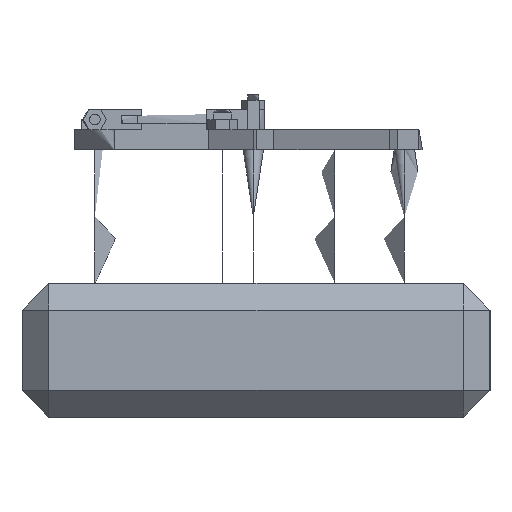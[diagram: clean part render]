
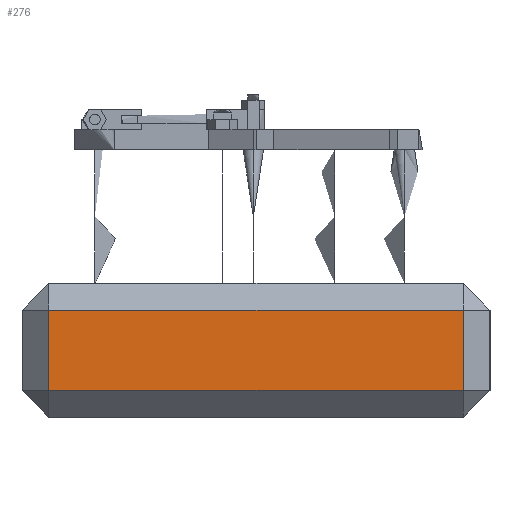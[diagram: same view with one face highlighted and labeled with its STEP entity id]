
A CAD part, left-side view. The second image highlights one B-rep face of the part: STEP entity #276.
In plain terms, the highlighted planar face has unit normal (-1, 0, 0).
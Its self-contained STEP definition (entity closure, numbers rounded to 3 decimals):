
#276=ADVANCED_FACE('',(#618),#4832,.T.);
#618=FACE_OUTER_BOUND('',#976,.T.);
#976=EDGE_LOOP('',(#2248,#2249,#2250,#2251));
#2248=ORIENTED_EDGE('',*,*,#3379,.T.);
#2249=ORIENTED_EDGE('',*,*,#3381,.T.);
#2250=ORIENTED_EDGE('',*,*,#3382,.F.);
#2251=ORIENTED_EDGE('',*,*,#3380,.F.);
#3379=EDGE_CURVE('',#4460,#4461,#5235,.T.);
#3380=EDGE_CURVE('',#4460,#4462,#5236,.T.);
#3381=EDGE_CURVE('',#4461,#4463,#5237,.T.);
#3382=EDGE_CURVE('',#4462,#4463,#5238,.T.);
#4460=VERTEX_POINT('',#9089);
#4461=VERTEX_POINT('',#9090);
#4462=VERTEX_POINT('',#9091);
#4463=VERTEX_POINT('',#9092);
#4832=PLANE('',#5638);
#5235=B_SPLINE_CURVE_WITH_KNOTS('',1,(#9667,#9668),.UNSPECIFIED.,.F.,.F.,
(2,2),(0.4,6.6),.UNSPECIFIED.);
#5236=B_SPLINE_CURVE_WITH_KNOTS('',1,(#9669,#9670),.UNSPECIFIED.,.F.,.F.,
(2,2),(0.4,1.6),.UNSPECIFIED.);
#5237=B_SPLINE_CURVE_WITH_KNOTS('',1,(#9671,#9672),.UNSPECIFIED.,.F.,.F.,
(2,2),(0.4,1.6),.UNSPECIFIED.);
#5238=B_SPLINE_CURVE_WITH_KNOTS('',1,(#9673,#9674),.UNSPECIFIED.,.F.,.F.,
(2,2),(0.4,6.6),.UNSPECIFIED.);
#5638=AXIS2_PLACEMENT_3D('',#8321,#5908,$);
#5908=DIRECTION('',(-1.,0.,0.));
#8321=CARTESIAN_POINT('',(-5.5,-3.5,0.));
#9089=CARTESIAN_POINT('',(-5.5,-3.1,1.6));
#9090=CARTESIAN_POINT('',(-5.5,3.1,1.6));
#9091=CARTESIAN_POINT('',(-5.5,-3.1,0.4));
#9092=CARTESIAN_POINT('',(-5.5,3.1,0.4));
#9667=CARTESIAN_POINT('',(-5.5,-3.1,1.6));
#9668=CARTESIAN_POINT('',(-5.5,3.1,1.6));
#9669=CARTESIAN_POINT('',(-5.5,-3.1,1.6));
#9670=CARTESIAN_POINT('',(-5.5,-3.1,0.4));
#9671=CARTESIAN_POINT('',(-5.5,3.1,1.6));
#9672=CARTESIAN_POINT('',(-5.5,3.1,0.4));
#9673=CARTESIAN_POINT('',(-5.5,-3.1,0.4));
#9674=CARTESIAN_POINT('',(-5.5,3.1,0.4));
